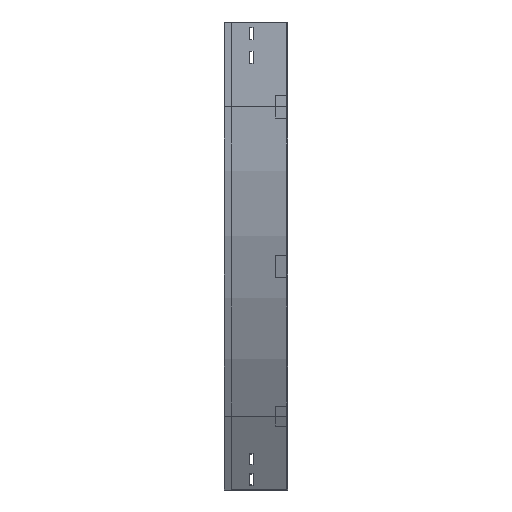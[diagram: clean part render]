
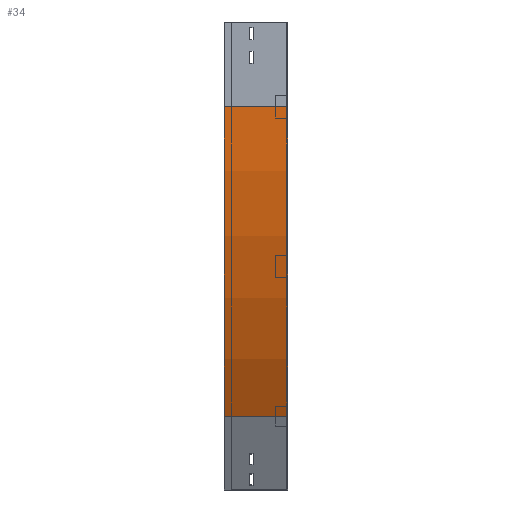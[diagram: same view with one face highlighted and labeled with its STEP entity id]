
A CAD part, left-side view. The second image highlights one B-rep face of the part: STEP entity #34.
In plain terms, the highlighted cylindrical face has radius 1100 mm (diameter 2200 mm), a partial arc.
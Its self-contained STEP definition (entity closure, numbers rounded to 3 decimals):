
#34 = ADVANCED_FACE ( 'NONE', ( #1937 ), #1347, .T. ) ;
#225 = VERTEX_POINT ( 'NONE', #3398 ) ;
#451 = DIRECTION ( 'NONE',  ( 0., 0., -1. ) ) ;
#454 = CARTESIAN_POINT ( 'NONE',  ( 0., 0., -150. ) ) ;
#540 = CIRCLE ( 'NONE', #3721, 1100. ) ;
#548 = ORIENTED_EDGE ( 'NONE', *, *, #1615, .T. ) ;
#712 = CARTESIAN_POINT ( 'NONE',  ( 147.372, 112.5, -700. ) ) ;
#718 = VECTOR ( 'NONE', #986, 1000. ) ;
#940 = AXIS2_PLACEMENT_3D ( 'NONE', #1047, #3140, #451 ) ;
#986 = DIRECTION ( 'NONE',  ( 0., -1., 0. ) ) ;
#1047 = CARTESIAN_POINT ( 'NONE',  ( 1100., 0., -150. ) ) ;
#1148 = ORIENTED_EDGE ( 'NONE', *, *, #2178, .T. ) ;
#1203 = CARTESIAN_POINT ( 'NONE',  ( 0., 112.5, -150. ) ) ;
#1347 = CYLINDRICAL_SURFACE ( 'NONE', #940, 1100. ) ;
#1373 = LINE ( 'NONE', #2659, #2079 ) ;
#1479 = CARTESIAN_POINT ( 'NONE',  ( 1100., 0., -150. ) ) ;
#1615 = EDGE_CURVE ( 'NONE', #3420, #225, #1373, .T. ) ;
#1620 = VERTEX_POINT ( 'NONE', #1203 ) ;
#1662 = DIRECTION ( 'NONE',  ( 0., -1., 0. ) ) ;
#1937 = FACE_OUTER_BOUND ( 'NONE', #3364, .T. ) ;
#1970 = DIRECTION ( 'NONE',  ( -1., 0., 0. ) ) ;
#2079 = VECTOR ( 'NONE', #2365, 1000. ) ;
#2137 = VERTEX_POINT ( 'NONE', #2966 ) ;
#2178 = EDGE_CURVE ( 'NONE', #1620, #3420, #2366, .T. ) ;
#2365 = DIRECTION ( 'NONE',  ( 0., -1., 0. ) ) ;
#2366 = CIRCLE ( 'NONE', #2863, 1100. ) ;
#2401 = CARTESIAN_POINT ( 'NONE',  ( 1100., 112.5, -150. ) ) ;
#2659 = CARTESIAN_POINT ( 'NONE',  ( 147.372, 0., -700. ) ) ;
#2853 = ORIENTED_EDGE ( 'NONE', *, *, #3392, .F. ) ;
#2863 = AXIS2_PLACEMENT_3D ( 'NONE', #2401, #1662, #1970 ) ;
#2961 = DIRECTION ( 'NONE',  ( 0., -1., 0. ) ) ;
#2966 = CARTESIAN_POINT ( 'NONE',  ( 0., 0., -150. ) ) ;
#3140 = DIRECTION ( 'NONE',  ( 0., -1., 0. ) ) ;
#3364 = EDGE_LOOP ( 'NONE', ( #3705, #2853, #1148, #548 ) ) ;
#3392 = EDGE_CURVE ( 'NONE', #1620, #2137, #3659, .T. ) ;
#3398 = CARTESIAN_POINT ( 'NONE',  ( 147.372, 0., -700. ) ) ;
#3420 = VERTEX_POINT ( 'NONE', #712 ) ;
#3659 = LINE ( 'NONE', #454, #718 ) ;
#3705 = ORIENTED_EDGE ( 'NONE', *, *, #3773, .F. ) ;
#3721 = AXIS2_PLACEMENT_3D ( 'NONE', #1479, #2961, #3843 ) ;
#3773 = EDGE_CURVE ( 'NONE', #2137, #225, #540, .T. ) ;
#3843 = DIRECTION ( 'NONE',  ( -1., 0., 0. ) ) ;
